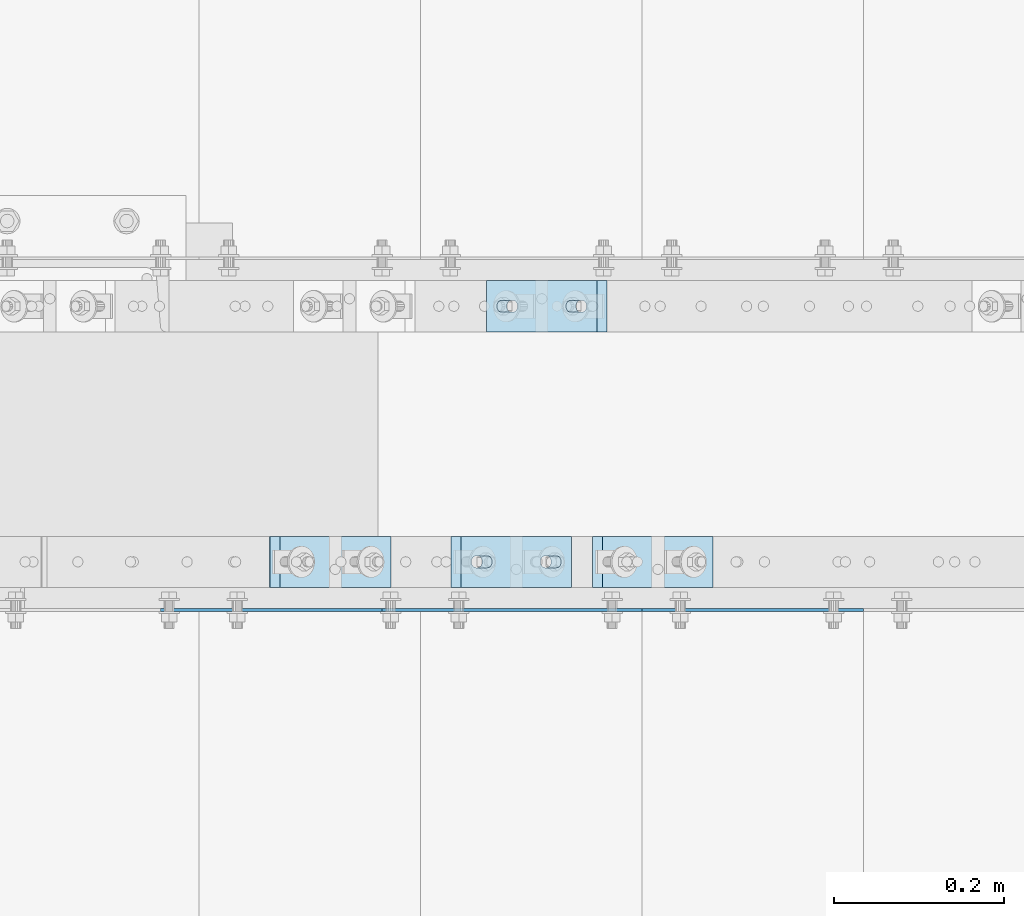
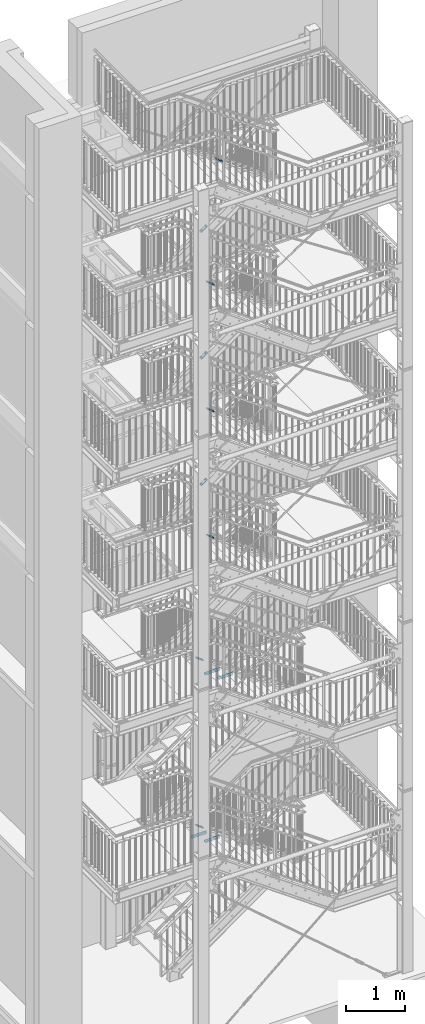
# One storey, part 171 of 825: 13 plates, 26 openings.
"""IFC2X3 building model written with IfcOpenShell, lengths in millimetres."""

from ifc_helpers import new_model, entity, si_unit, converted_unit, point, frame, frame_2d, origin, origin_with_axes, origin_2d_with_axis, place, context, project, spatial, polyline, circle_curve, line_curve, trimmed, segment, composite_curve, circle, outline, extrude, material, layer, layer_set, element, save


model = new_model("IFC2X3")

# Units and contexts
model_context = context("Model", 3, precision=1e-09, world=origin_with_axes())
ifc_project = project(units=[si_unit("LENGTHUNIT", "METRE", prefix="MILLI"), si_unit("AREAUNIT", "SQUARE_METRE"), si_unit("VOLUMEUNIT", "CUBIC_METRE"), converted_unit("PLANEANGLEUNIT", "DEGREE", entity("IfcPlaneAngleMeasure", 0.01745329), si_unit("PLANEANGLEUNIT", "RADIAN"), dimensions=[0, 0, 0, 0, 0, 0, 0])], contexts=[model_context])

# Site, building, storey
site_placement = place(None, origin_with_axes())
site = spatial("IfcSite", under=ifc_project, at=site_placement, Name="Cnopf'sche Kinderklinik", CompositionType="ELEMENT")
building_placement = place(site_placement, origin_with_axes())
building = spatial("IfcBuilding", under=site, at=building_placement, Name="Struktur 1", CompositionType="ELEMENT")
storey_placement = place(building_placement, origin_with_axes())
storey = spatial("IfcBuildingStorey", under=building, at=storey_placement, Name="Default Storey", CompositionType="ELEMENT", Elevation=0.0)

# Plate, openings
ifc_material = material(Name="S235JR")
ifc_layer_1 = layer(ifc_material, 20.0)
ifc_layer_set_1 = layer_set([ifc_layer_1], Name="S235JR")
plate_1_placement = place(None, frame((5975.781539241, 6121.736971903, 10525.387910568), z_axis=(-0.585213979, 0.0, 0.810878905), x_axis=(-0.810878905, 0.0, -0.585213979)))
plate_1 = element("IfcPlate", 1, at=plate_1_placement, inside=storey, material=ifc_layer_set_1, Name="Plate#501", ObjectType="Plate#501", context=model_context, shape_type="SweptSolid", body=[
    extrude(outline(polyline([(0.0, 0.0), (160.0, 0.0), (160.0, 60.0), (0.0, 60.0), (0.0, 0.0)])), origin_with_axes(), (0.0, 0.0, 1.0), 20.0),
])
opening_1_placement = place(plate_1_placement, frame((38.0, 37.001, 20.5), z_axis=(0.0, 0.0, 1.0), x_axis=(-1.0, 0.0, 0.0)))
element("IfcOpeningElement", 2, at=opening_1_placement, cuts=plate_1, ObjectType="Opening", context=model_context, shape_type="SweptSolid", body=[
    extrude(outline(composite_curve([segment(trimmed(line_curve((0.0, 0.0), (1.0, 0.0), 16.0), [point((0.0, 0.0))], [point((16.0, 0.0))], True, "CARTESIAN"), True, "CONTINUOUS"), segment(trimmed(circle_curve(frame_2d((16.0, 7.001), x_axis=(1.0, 0.0)), 7.001), [point((16.0, 0.0))], [point((16.0, 14.002))], True, "CARTESIAN"), True, "CONTINUOUS"), segment(trimmed(line_curve((16.0, 14.002), (-1.0, 0.0), 16.0), [point((16.0, 14.002))], [point((0.0, 14.002))], True, "CARTESIAN"), True, "CONTINUOUS"), segment(trimmed(circle_curve(frame_2d((0.0, 7.001), x_axis=(1.0, 0.0)), 7.001), [point((0.0, 14.002))], [point((0.0, 0.0))], True, "CARTESIAN"), True, "CONTINUOUS")], self_intersect=False)), origin(), (0.0, 0.0, -1.0), 21.0),
])
opening_2_placement = place(plate_1_placement, frame((138.0, 37.001, 20.5), z_axis=(0.0, 0.0, 1.0), x_axis=(-1.0, 0.0, 0.0)))
element("IfcOpeningElement", 3, at=opening_2_placement, cuts=plate_1, ObjectType="Opening", context=model_context, shape_type="SweptSolid", body=[
    extrude(outline(composite_curve([segment(trimmed(line_curve((0.0, 0.0), (1.0, 0.0), 16.0), [point((0.0, 0.0))], [point((16.0, 0.0))], True, "CARTESIAN"), True, "CONTINUOUS"), segment(trimmed(circle_curve(frame_2d((16.0, 7.001), x_axis=(1.0, 0.0)), 7.001), [point((16.0, 0.0))], [point((16.0, 14.002))], True, "CARTESIAN"), True, "CONTINUOUS"), segment(trimmed(line_curve((16.0, 14.002), (-1.0, 0.0), 16.0), [point((16.0, 14.002))], [point((0.0, 14.002))], True, "CARTESIAN"), True, "CONTINUOUS"), segment(trimmed(circle_curve(frame_2d((0.0, 7.001), x_axis=(1.0, 0.0)), 7.001), [point((0.0, 14.002))], [point((0.0, 0.0))], True, "CARTESIAN"), True, "CONTINUOUS")], self_intersect=False)), origin(), (0.0, 0.0, -1.0), 21.0),
])

plate_2_placement = place(None, frame((5975.709509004, 6121.736971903, 13153.960093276), z_axis=(-0.586383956, 0.0, 0.810033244), x_axis=(-0.810033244, 0.0, -0.586383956)))
plate_2 = element("IfcPlate", 4, at=plate_2_placement, inside=storey, material=ifc_layer_set_1, Name="Plate#501", ObjectType="Plate#501", context=model_context, shape_type="SweptSolid", body=[
    extrude(outline(polyline([(0.0, 0.0), (160.0, 0.0), (160.0, 60.0), (0.0, 60.0), (0.0, 0.0)])), origin_with_axes(), (0.0, 0.0, 1.0), 20.0),
])
opening_3_placement = place(plate_2_placement, frame((38.0, 37.001, 20.5), z_axis=(0.0, 0.0, 1.0), x_axis=(-1.0, 0.0, 0.0)))
element("IfcOpeningElement", 5, at=opening_3_placement, cuts=plate_2, ObjectType="Opening", context=model_context, shape_type="SweptSolid", body=[
    extrude(outline(composite_curve([segment(trimmed(line_curve((0.0, 0.0), (1.0, 0.0), 16.0), [point((0.0, 0.0))], [point((16.0, 0.0))], True, "CARTESIAN"), True, "CONTINUOUS"), segment(trimmed(circle_curve(frame_2d((16.0, 7.001), x_axis=(1.0, 0.0)), 7.001), [point((16.0, 0.0))], [point((16.0, 14.002))], True, "CARTESIAN"), True, "CONTINUOUS"), segment(trimmed(line_curve((16.0, 14.002), (-1.0, 0.0), 16.0), [point((16.0, 14.002))], [point((0.0, 14.002))], True, "CARTESIAN"), True, "CONTINUOUS"), segment(trimmed(circle_curve(frame_2d((0.0, 7.001), x_axis=(1.0, 0.0)), 7.001), [point((0.0, 14.002))], [point((0.0, 0.0))], True, "CARTESIAN"), True, "CONTINUOUS")], self_intersect=False)), origin(), (0.0, 0.0, -1.0), 21.0),
])
opening_4_placement = place(plate_2_placement, frame((138.0, 37.001, 20.5), z_axis=(0.0, 0.0, 1.0), x_axis=(-1.0, 0.0, 0.0)))
element("IfcOpeningElement", 6, at=opening_4_placement, cuts=plate_2, ObjectType="Opening", context=model_context, shape_type="SweptSolid", body=[
    extrude(outline(composite_curve([segment(trimmed(line_curve((0.0, 0.0), (1.0, 0.0), 16.0), [point((0.0, 0.0))], [point((16.0, 0.0))], True, "CARTESIAN"), True, "CONTINUOUS"), segment(trimmed(circle_curve(frame_2d((16.0, 7.001), x_axis=(1.0, 0.0)), 7.001), [point((16.0, 0.0))], [point((16.0, 14.002))], True, "CARTESIAN"), True, "CONTINUOUS"), segment(trimmed(line_curve((16.0, 14.002), (-1.0, 0.0), 16.0), [point((16.0, 14.002))], [point((0.0, 14.002))], True, "CARTESIAN"), True, "CONTINUOUS"), segment(trimmed(circle_curve(frame_2d((0.0, 7.001), x_axis=(1.0, 0.0)), 7.001), [point((0.0, 14.002))], [point((0.0, 0.0))], True, "CARTESIAN"), True, "CONTINUOUS")], self_intersect=False)), origin(), (0.0, 0.0, -1.0), 21.0),
])

plate_3_placement = place(None, frame((5975.844570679, 6121.736971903, 15786.011994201), z_axis=(-0.584187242, 0.0, 0.811618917), x_axis=(-0.811618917, 0.0, -0.584187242)))
plate_3 = element("IfcPlate", 7, at=plate_3_placement, inside=storey, material=ifc_layer_set_1, Name="Plate#501", ObjectType="Plate#501", context=model_context, shape_type="SweptSolid", body=[
    extrude(outline(polyline([(0.0, 0.0), (160.0, 0.0), (160.0, 60.0), (0.0, 60.0), (0.0, 0.0)])), origin_with_axes(), (0.0, 0.0, 1.0), 20.0),
])
opening_5_placement = place(plate_3_placement, frame((38.0, 37.001, 20.5), z_axis=(0.0, 0.0, 1.0), x_axis=(-1.0, 0.0, 0.0)))
element("IfcOpeningElement", 8, at=opening_5_placement, cuts=plate_3, ObjectType="Opening", context=model_context, shape_type="SweptSolid", body=[
    extrude(outline(composite_curve([segment(trimmed(line_curve((0.0, 0.0), (1.0, 0.0), 16.0), [point((0.0, 0.0))], [point((16.0, 0.0))], True, "CARTESIAN"), True, "CONTINUOUS"), segment(trimmed(circle_curve(frame_2d((16.0, 7.001), x_axis=(1.0, 0.0)), 7.001), [point((16.0, 0.0))], [point((16.0, 14.002))], True, "CARTESIAN"), True, "CONTINUOUS"), segment(trimmed(line_curve((16.0, 14.002), (-1.0, 0.0), 16.0), [point((16.0, 14.002))], [point((0.0, 14.002))], True, "CARTESIAN"), True, "CONTINUOUS"), segment(trimmed(circle_curve(frame_2d((0.0, 7.001), x_axis=(1.0, 0.0)), 7.001), [point((0.0, 14.002))], [point((0.0, 0.0))], True, "CARTESIAN"), True, "CONTINUOUS")], self_intersect=False)), origin(), (0.0, 0.0, -1.0), 21.0),
])
opening_6_placement = place(plate_3_placement, frame((138.0, 37.001, 20.5), z_axis=(0.0, 0.0, 1.0), x_axis=(-1.0, 0.0, 0.0)))
element("IfcOpeningElement", 9, at=opening_6_placement, cuts=plate_3, ObjectType="Opening", context=model_context, shape_type="SweptSolid", body=[
    extrude(outline(composite_curve([segment(trimmed(line_curve((0.0, 0.0), (1.0, 0.0), 16.0), [point((0.0, 0.0))], [point((16.0, 0.0))], True, "CARTESIAN"), True, "CONTINUOUS"), segment(trimmed(circle_curve(frame_2d((16.0, 7.001), x_axis=(1.0, 0.0)), 7.001), [point((16.0, 0.0))], [point((16.0, 14.002))], True, "CARTESIAN"), True, "CONTINUOUS"), segment(trimmed(line_curve((16.0, 14.002), (-1.0, 0.0), 16.0), [point((16.0, 14.002))], [point((0.0, 14.002))], True, "CARTESIAN"), True, "CONTINUOUS"), segment(trimmed(circle_curve(frame_2d((0.0, 7.001), x_axis=(1.0, 0.0)), 7.001), [point((0.0, 14.002))], [point((0.0, 0.0))], True, "CARTESIAN"), True, "CONTINUOUS")], self_intersect=False)), origin(), (0.0, 0.0, -1.0), 21.0),
])

plate_4_placement = place(None, frame((5580.039038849, 5761.736971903, 3642.571606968), z_axis=(0.579973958, 0.0, 0.814635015), x_axis=(0.814635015, 0.0, -0.579973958)))
plate_4 = element("IfcPlate", 10, at=plate_4_placement, inside=storey, material=ifc_layer_set_1, Name="Plate#502", ObjectType="Plate#502", context=model_context, shape_type="SweptSolid", body=[
    extrude(outline(polyline([(0.0, 0.0), (160.0, 0.0), (160.0, 60.0), (0.0, 60.0), (0.0, 0.0)])), origin_with_axes(), (0.0, 0.0, 1.0), 20.0),
])
opening_7_placement = place(plate_4_placement, frame((38.0, 37.001, 20.5), z_axis=(0.0, 0.0, 1.0), x_axis=(-1.0, 0.0, 0.0)))
element("IfcOpeningElement", 11, at=opening_7_placement, cuts=plate_4, ObjectType="Opening", context=model_context, shape_type="SweptSolid", body=[
    extrude(outline(composite_curve([segment(trimmed(line_curve((0.0, 0.0), (1.0, 0.0), 16.0), [point((0.0, 0.0))], [point((16.0, 0.0))], True, "CARTESIAN"), True, "CONTINUOUS"), segment(trimmed(circle_curve(frame_2d((16.0, 7.001), x_axis=(1.0, 0.0)), 7.001), [point((16.0, 0.0))], [point((16.0, 14.002))], True, "CARTESIAN"), True, "CONTINUOUS"), segment(trimmed(line_curve((16.0, 14.002), (-1.0, 0.0), 16.0), [point((16.0, 14.002))], [point((0.0, 14.002))], True, "CARTESIAN"), True, "CONTINUOUS"), segment(trimmed(circle_curve(frame_2d((0.0, 7.001), x_axis=(1.0, 0.0)), 7.001), [point((0.0, 14.002))], [point((0.0, 0.0))], True, "CARTESIAN"), True, "CONTINUOUS")], self_intersect=False)), origin(), (0.0, 0.0, -1.0), 21.0),
])
opening_8_placement = place(plate_4_placement, frame((138.0, 37.001, 20.5), z_axis=(0.0, 0.0, 1.0), x_axis=(-1.0, 0.0, 0.0)))
element("IfcOpeningElement", 12, at=opening_8_placement, cuts=plate_4, ObjectType="Opening", context=model_context, shape_type="SweptSolid", body=[
    extrude(outline(composite_curve([segment(trimmed(line_curve((0.0, 0.0), (1.0, 0.0), 16.0), [point((0.0, 0.0))], [point((16.0, 0.0))], True, "CARTESIAN"), True, "CONTINUOUS"), segment(trimmed(circle_curve(frame_2d((16.0, 7.001), x_axis=(1.0, 0.0)), 7.001), [point((16.0, 0.0))], [point((16.0, 14.002))], True, "CARTESIAN"), True, "CONTINUOUS"), segment(trimmed(line_curve((16.0, 14.002), (-1.0, 0.0), 16.0), [point((16.0, 14.002))], [point((0.0, 14.002))], True, "CARTESIAN"), True, "CONTINUOUS"), segment(trimmed(circle_curve(frame_2d((0.0, 7.001), x_axis=(1.0, 0.0)), 7.001), [point((0.0, 14.002))], [point((0.0, 0.0))], True, "CARTESIAN"), True, "CONTINUOUS")], self_intersect=False)), origin(), (0.0, 0.0, -1.0), 21.0),
])

plate_5_placement = place(None, frame((5579.69602376, 5761.736971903, 7118.870720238), z_axis=(0.57512827, 0.0, 0.818063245), x_axis=(0.818063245, 0.0, -0.57512827)))
plate_5 = element("IfcPlate", 13, at=plate_5_placement, inside=storey, material=ifc_layer_set_1, Name="Plate#502", ObjectType="Plate#502", context=model_context, shape_type="SweptSolid", body=[
    extrude(outline(polyline([(0.0, 0.0), (160.0, 0.0), (160.0, 60.0), (0.0, 60.0), (0.0, 0.0)])), origin_with_axes(), (0.0, 0.0, 1.0), 20.0),
])
opening_9_placement = place(plate_5_placement, frame((38.0, 37.001, 20.5), z_axis=(0.0, 0.0, 1.0), x_axis=(-1.0, 0.0, 0.0)))
element("IfcOpeningElement", 14, at=opening_9_placement, cuts=plate_5, ObjectType="Opening", context=model_context, shape_type="SweptSolid", body=[
    extrude(outline(composite_curve([segment(trimmed(line_curve((0.0, 0.0), (1.0, 0.0), 16.0), [point((0.0, 0.0))], [point((16.0, 0.0))], True, "CARTESIAN"), True, "CONTINUOUS"), segment(trimmed(circle_curve(frame_2d((16.0, 7.001), x_axis=(1.0, 0.0)), 7.001), [point((16.0, 0.0))], [point((16.0, 14.002))], True, "CARTESIAN"), True, "CONTINUOUS"), segment(trimmed(line_curve((16.0, 14.002), (-1.0, 0.0), 16.0), [point((16.0, 14.002))], [point((0.0, 14.002))], True, "CARTESIAN"), True, "CONTINUOUS"), segment(trimmed(circle_curve(frame_2d((0.0, 7.001), x_axis=(1.0, 0.0)), 7.001), [point((0.0, 14.002))], [point((0.0, 0.0))], True, "CARTESIAN"), True, "CONTINUOUS")], self_intersect=False)), origin(), (0.0, 0.0, -1.0), 21.0),
])
opening_10_placement = place(plate_5_placement, frame((138.0, 37.001, 20.5), z_axis=(0.0, 0.0, 1.0), x_axis=(-1.0, 0.0, 0.0)))
element("IfcOpeningElement", 15, at=opening_10_placement, cuts=plate_5, ObjectType="Opening", context=model_context, shape_type="SweptSolid", body=[
    extrude(outline(composite_curve([segment(trimmed(line_curve((0.0, 0.0), (1.0, 0.0), 16.0), [point((0.0, 0.0))], [point((16.0, 0.0))], True, "CARTESIAN"), True, "CONTINUOUS"), segment(trimmed(circle_curve(frame_2d((16.0, 7.001), x_axis=(1.0, 0.0)), 7.001), [point((16.0, 0.0))], [point((16.0, 14.002))], True, "CARTESIAN"), True, "CONTINUOUS"), segment(trimmed(line_curve((16.0, 14.002), (-1.0, 0.0), 16.0), [point((16.0, 14.002))], [point((0.0, 14.002))], True, "CARTESIAN"), True, "CONTINUOUS"), segment(trimmed(circle_curve(frame_2d((0.0, 7.001), x_axis=(1.0, 0.0)), 7.001), [point((0.0, 14.002))], [point((0.0, 0.0))], True, "CARTESIAN"), True, "CONTINUOUS")], self_intersect=False)), origin(), (0.0, 0.0, -1.0), 21.0),
])

plate_6_placement = place(None, frame((5792.6912864, 5761.736971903, 9589.985222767), z_axis=(0.585945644, 0.0, 0.810350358), x_axis=(0.810350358, 0.0, -0.585945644)))
plate_6 = element("IfcPlate", 16, at=plate_6_placement, inside=storey, material=ifc_layer_set_1, Name="Plate#501", ObjectType="Plate#501", context=model_context, shape_type="SweptSolid", body=[
    extrude(outline(polyline([(0.0, 0.0), (160.0, 0.0), (160.0, 60.0), (0.0, 60.0), (0.0, 0.0)])), origin_with_axes(), (0.0, 0.0, 1.0), 20.0),
])
opening_11_placement = place(plate_6_placement, frame((38.0, 37.001, 20.5), z_axis=(0.0, 0.0, 1.0), x_axis=(-1.0, 0.0, 0.0)))
element("IfcOpeningElement", 17, at=opening_11_placement, cuts=plate_6, ObjectType="Opening", context=model_context, shape_type="SweptSolid", body=[
    extrude(outline(composite_curve([segment(trimmed(line_curve((0.0, 0.0), (1.0, 0.0), 16.0), [point((0.0, 0.0))], [point((16.0, 0.0))], True, "CARTESIAN"), True, "CONTINUOUS"), segment(trimmed(circle_curve(frame_2d((16.0, 7.001), x_axis=(1.0, 0.0)), 7.001), [point((16.0, 0.0))], [point((16.0, 14.002))], True, "CARTESIAN"), True, "CONTINUOUS"), segment(trimmed(line_curve((16.0, 14.002), (-1.0, 0.0), 16.0), [point((16.0, 14.002))], [point((0.0, 14.002))], True, "CARTESIAN"), True, "CONTINUOUS"), segment(trimmed(circle_curve(frame_2d((0.0, 7.001), x_axis=(1.0, 0.0)), 7.001), [point((0.0, 14.002))], [point((0.0, 0.0))], True, "CARTESIAN"), True, "CONTINUOUS")], self_intersect=False)), origin(), (0.0, 0.0, -1.0), 21.0),
])
opening_12_placement = place(plate_6_placement, frame((138.0, 37.001, 20.5), z_axis=(0.0, 0.0, 1.0), x_axis=(-1.0, 0.0, 0.0)))
element("IfcOpeningElement", 18, at=opening_12_placement, cuts=plate_6, ObjectType="Opening", context=model_context, shape_type="SweptSolid", body=[
    extrude(outline(composite_curve([segment(trimmed(line_curve((0.0, 0.0), (1.0, 0.0), 16.0), [point((0.0, 0.0))], [point((16.0, 0.0))], True, "CARTESIAN"), True, "CONTINUOUS"), segment(trimmed(circle_curve(frame_2d((16.0, 7.001), x_axis=(1.0, 0.0)), 7.001), [point((16.0, 0.0))], [point((16.0, 14.002))], True, "CARTESIAN"), True, "CONTINUOUS"), segment(trimmed(line_curve((16.0, 14.002), (-1.0, 0.0), 16.0), [point((16.0, 14.002))], [point((0.0, 14.002))], True, "CARTESIAN"), True, "CONTINUOUS"), segment(trimmed(circle_curve(frame_2d((0.0, 7.001), x_axis=(1.0, 0.0)), 7.001), [point((0.0, 14.002))], [point((0.0, 0.0))], True, "CARTESIAN"), True, "CONTINUOUS")], self_intersect=False)), origin(), (0.0, 0.0, -1.0), 21.0),
])

plate_7_placement = place(None, frame((5792.646266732, 5761.736971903, 12217.781419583), z_axis=(0.585213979, 0.0, 0.810878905), x_axis=(0.810878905, 0.0, -0.585213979)))
plate_7 = element("IfcPlate", 19, at=plate_7_placement, inside=storey, material=ifc_layer_set_1, Name="Plate#501", ObjectType="Plate#501", context=model_context, shape_type="SweptSolid", body=[
    extrude(outline(polyline([(0.0, 0.0), (160.0, 0.0), (160.0, 60.0), (0.0, 60.0), (0.0, 0.0)])), origin_with_axes(), (0.0, 0.0, 1.0), 20.0),
])
opening_13_placement = place(plate_7_placement, frame((38.0, 37.001, 20.5), z_axis=(0.0, 0.0, 1.0), x_axis=(-1.0, 0.0, 0.0)))
element("IfcOpeningElement", 20, at=opening_13_placement, cuts=plate_7, ObjectType="Opening", context=model_context, shape_type="SweptSolid", body=[
    extrude(outline(composite_curve([segment(trimmed(line_curve((0.0, 0.0), (1.0, 0.0), 16.0), [point((0.0, 0.0))], [point((16.0, 0.0))], True, "CARTESIAN"), True, "CONTINUOUS"), segment(trimmed(circle_curve(frame_2d((16.0, 7.001), x_axis=(1.0, 0.0)), 7.001), [point((16.0, 0.0))], [point((16.0, 14.002))], True, "CARTESIAN"), True, "CONTINUOUS"), segment(trimmed(line_curve((16.0, 14.002), (-1.0, 0.0), 16.0), [point((16.0, 14.002))], [point((0.0, 14.002))], True, "CARTESIAN"), True, "CONTINUOUS"), segment(trimmed(circle_curve(frame_2d((0.0, 7.001), x_axis=(1.0, 0.0)), 7.001), [point((0.0, 14.002))], [point((0.0, 0.0))], True, "CARTESIAN"), True, "CONTINUOUS")], self_intersect=False)), origin(), (0.0, 0.0, -1.0), 21.0),
])
opening_14_placement = place(plate_7_placement, frame((138.0, 37.001, 20.5), z_axis=(0.0, 0.0, 1.0), x_axis=(-1.0, 0.0, 0.0)))
element("IfcOpeningElement", 21, at=opening_14_placement, cuts=plate_7, ObjectType="Opening", context=model_context, shape_type="SweptSolid", body=[
    extrude(outline(composite_curve([segment(trimmed(line_curve((0.0, 0.0), (1.0, 0.0), 16.0), [point((0.0, 0.0))], [point((16.0, 0.0))], True, "CARTESIAN"), True, "CONTINUOUS"), segment(trimmed(circle_curve(frame_2d((16.0, 7.001), x_axis=(1.0, 0.0)), 7.001), [point((16.0, 0.0))], [point((16.0, 14.002))], True, "CARTESIAN"), True, "CONTINUOUS"), segment(trimmed(line_curve((16.0, 14.002), (-1.0, 0.0), 16.0), [point((16.0, 14.002))], [point((0.0, 14.002))], True, "CARTESIAN"), True, "CONTINUOUS"), segment(trimmed(circle_curve(frame_2d((0.0, 7.001), x_axis=(1.0, 0.0)), 7.001), [point((0.0, 14.002))], [point((0.0, 0.0))], True, "CARTESIAN"), True, "CONTINUOUS")], self_intersect=False)), origin(), (0.0, 0.0, -1.0), 21.0),
])

plate_8_placement = place(None, frame((5792.718296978, 5761.736971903, 14851.50744628), z_axis=(0.586383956, 0.0, 0.810033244), x_axis=(0.810033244, 0.0, -0.586383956)))
plate_8 = element("IfcPlate", 22, at=plate_8_placement, inside=storey, material=ifc_layer_set_1, Name="Plate#501", ObjectType="Plate#501", context=model_context, shape_type="SweptSolid", body=[
    extrude(outline(polyline([(0.0, 0.0), (160.0, 0.0), (160.0, 60.0), (0.0, 60.0), (0.0, 0.0)])), origin_with_axes(), (0.0, 0.0, 1.0), 20.0),
])
opening_15_placement = place(plate_8_placement, frame((38.0, 37.001, 20.5), z_axis=(0.0, 0.0, 1.0), x_axis=(-1.0, 0.0, 0.0)))
element("IfcOpeningElement", 23, at=opening_15_placement, cuts=plate_8, ObjectType="Opening", context=model_context, shape_type="SweptSolid", body=[
    extrude(outline(composite_curve([segment(trimmed(line_curve((0.0, 0.0), (1.0, 0.0), 16.0), [point((0.0, 0.0))], [point((16.0, 0.0))], True, "CARTESIAN"), True, "CONTINUOUS"), segment(trimmed(circle_curve(frame_2d((16.0, 7.001), x_axis=(1.0, 0.0)), 7.001), [point((16.0, 0.0))], [point((16.0, 14.002))], True, "CARTESIAN"), True, "CONTINUOUS"), segment(trimmed(line_curve((16.0, 14.002), (-1.0, 0.0), 16.0), [point((16.0, 14.002))], [point((0.0, 14.002))], True, "CARTESIAN"), True, "CONTINUOUS"), segment(trimmed(circle_curve(frame_2d((0.0, 7.001), x_axis=(1.0, 0.0)), 7.001), [point((0.0, 14.002))], [point((0.0, 0.0))], True, "CARTESIAN"), True, "CONTINUOUS")], self_intersect=False)), origin(), (0.0, 0.0, -1.0), 21.0),
])
opening_16_placement = place(plate_8_placement, frame((138.0, 37.001, 20.5), z_axis=(0.0, 0.0, 1.0), x_axis=(-1.0, 0.0, 0.0)))
element("IfcOpeningElement", 24, at=opening_16_placement, cuts=plate_8, ObjectType="Opening", context=model_context, shape_type="SweptSolid", body=[
    extrude(outline(composite_curve([segment(trimmed(line_curve((0.0, 0.0), (1.0, 0.0), 16.0), [point((0.0, 0.0))], [point((16.0, 0.0))], True, "CARTESIAN"), True, "CONTINUOUS"), segment(trimmed(circle_curve(frame_2d((16.0, 7.001), x_axis=(1.0, 0.0)), 7.001), [point((16.0, 0.0))], [point((16.0, 14.002))], True, "CARTESIAN"), True, "CONTINUOUS"), segment(trimmed(line_curve((16.0, 14.002), (-1.0, 0.0), 16.0), [point((16.0, 14.002))], [point((0.0, 14.002))], True, "CARTESIAN"), True, "CONTINUOUS"), segment(trimmed(circle_curve(frame_2d((0.0, 7.001), x_axis=(1.0, 0.0)), 7.001), [point((0.0, 14.002))], [point((0.0, 0.0))], True, "CARTESIAN"), True, "CONTINUOUS")], self_intersect=False)), origin(), (0.0, 0.0, -1.0), 21.0),
])

plate_9_placement = place(None, frame((5958.833485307, 5761.736971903, 17354.232248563), z_axis=(0.584187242, 0.0, 0.811618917), x_axis=(0.811618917, 0.0, -0.584187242)))
plate_9 = element("IfcPlate", 25, at=plate_9_placement, inside=storey, material=ifc_layer_set_1, Name="Plate#501", ObjectType="Plate#501", context=model_context, shape_type="SweptSolid", body=[
    extrude(outline(polyline([(0.0, 0.0), (160.0, 0.0), (160.0, 60.0), (0.0, 60.0), (0.0, 0.0)])), origin_with_axes(), (0.0, 0.0, 1.0), 20.0),
])
opening_17_placement = place(plate_9_placement, frame((38.0, 37.001, 20.5), z_axis=(0.0, 0.0, 1.0), x_axis=(-1.0, 0.0, 0.0)))
element("IfcOpeningElement", 26, at=opening_17_placement, cuts=plate_9, ObjectType="Opening", context=model_context, shape_type="SweptSolid", body=[
    extrude(outline(composite_curve([segment(trimmed(line_curve((0.0, 0.0), (1.0, 0.0), 16.0), [point((0.0, 0.0))], [point((16.0, 0.0))], True, "CARTESIAN"), True, "CONTINUOUS"), segment(trimmed(circle_curve(frame_2d((16.0, 7.001), x_axis=(1.0, 0.0)), 7.001), [point((16.0, 0.0))], [point((16.0, 14.002))], True, "CARTESIAN"), True, "CONTINUOUS"), segment(trimmed(line_curve((16.0, 14.002), (-1.0, 0.0), 16.0), [point((16.0, 14.002))], [point((0.0, 14.002))], True, "CARTESIAN"), True, "CONTINUOUS"), segment(trimmed(circle_curve(frame_2d((0.0, 7.001), x_axis=(1.0, 0.0)), 7.001), [point((0.0, 14.002))], [point((0.0, 0.0))], True, "CARTESIAN"), True, "CONTINUOUS")], self_intersect=False)), origin(), (0.0, 0.0, -1.0), 21.0),
])
opening_18_placement = place(plate_9_placement, frame((138.0, 37.001, 20.5), z_axis=(0.0, 0.0, 1.0), x_axis=(-1.0, 0.0, 0.0)))
element("IfcOpeningElement", 27, at=opening_18_placement, cuts=plate_9, ObjectType="Opening", context=model_context, shape_type="SweptSolid", body=[
    extrude(outline(composite_curve([segment(trimmed(line_curve((0.0, 0.0), (1.0, 0.0), 16.0), [point((0.0, 0.0))], [point((16.0, 0.0))], True, "CARTESIAN"), True, "CONTINUOUS"), segment(trimmed(circle_curve(frame_2d((16.0, 7.001), x_axis=(1.0, 0.0)), 7.001), [point((16.0, 0.0))], [point((16.0, 14.002))], True, "CARTESIAN"), True, "CONTINUOUS"), segment(trimmed(line_curve((16.0, 14.002), (-1.0, 0.0), 16.0), [point((16.0, 14.002))], [point((0.0, 14.002))], True, "CARTESIAN"), True, "CONTINUOUS"), segment(trimmed(circle_curve(frame_2d((0.0, 7.001), x_axis=(1.0, 0.0)), 7.001), [point((0.0, 14.002))], [point((0.0, 0.0))], True, "CARTESIAN"), True, "CONTINUOUS")], self_intersect=False)), origin(), (0.0, 0.0, -1.0), 21.0),
])

ifc_layer_2 = layer(ifc_material, 3.0)
ifc_layer_set_2 = layer_set([ifc_layer_2], Name="S235JR")
plate_10_placement = place(None, frame((5756.713402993, 5733.736971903, 3516.7894736), z_axis=(0.0, 1.0, 0.0), x_axis=(0.0, 0.0, -1.0)))
plate_10 = element("IfcPlate", 28, at=plate_10_placement, inside=storey, material=ifc_layer_set_2, Name="Grate_Step#45", ObjectType="Grate_Step#45", context=model_context, shape_type="SweptSolid", body=[
    extrude(outline(polyline([(0.0, 0.0), (70.0, 0.0), (70.0, 275.0), (40.0, 305.0), (0.0, 305.0), (0.0, 0.0)])), origin_with_axes(), (0.0, 0.0, 1.0), 3.0),
])
opening_19_placement = place(plate_10_placement, frame((55.0, 215.0, -0.5), z_axis=(0.0, 0.0, 1.0), x_axis=(0.0, 1.0, 0.0)))
element("IfcOpeningElement", 29, at=opening_19_placement, cuts=plate_10, ObjectType="Opening", context=model_context, shape_type="SweptSolid", body=[
    extrude(outline(composite_curve([segment(trimmed(line_curve((-9.5, -7.001), (1.0, 0.0), 19.0), [point((-9.5, -7.001))], [point((9.5, -7.001))], True, "CARTESIAN"), True, "CONTINUOUS"), segment(trimmed(circle_curve(frame_2d((9.5, 0.0), x_axis=(1.0, 0.0)), 7.001), [point((9.5, -7.001))], [point((9.5, 7.001))], True, "CARTESIAN"), True, "CONTINUOUS"), segment(trimmed(line_curve((9.5, 7.001), (-1.0, 0.0), 19.0), [point((9.5, 7.001))], [point((-9.5, 7.001))], True, "CARTESIAN"), True, "CONTINUOUS"), segment(trimmed(circle_curve(frame_2d((-9.5, 0.0), x_axis=(1.0, 0.0)), 7.001), [point((-9.5, 7.001))], [point((-9.5, -7.001))], True, "CARTESIAN"), True, "CONTINUOUS")], self_intersect=False)), origin(), (0.0, 0.0, 1.0), 4.0),
])
opening_20_placement = place(plate_10_placement, frame((55.0, 35.0, -0.5), z_axis=(0.0, 0.0, 1.0), x_axis=(0.0, 1.0, 0.0)))
element("IfcOpeningElement", 30, at=opening_20_placement, cuts=plate_10, ObjectType="Opening", context=model_context, shape_type="SweptSolid", body=[
    extrude(circle(Radius=7.001, at=origin_2d_with_axis()), origin(), (0.0, 0.0, 1.0), 4.0),
])

plate_11_placement = place(None, frame((6016.713402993, 5733.736971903, 3331.6842104), z_axis=(0.0, 1.0, 0.0), x_axis=(0.0, 0.0, -1.0)))
plate_11 = element("IfcPlate", 31, at=plate_11_placement, inside=storey, material=ifc_layer_set_2, Name="Grate_Step#38", ObjectType="Grate_Step#38", context=model_context, shape_type="SweptSolid", body=[
    extrude(outline(polyline([(0.0, 0.0), (70.0, 0.0), (70.0, 275.0), (40.0, 305.0), (0.0, 305.0), (0.0, 0.0)])), origin_with_axes(), (0.0, 0.0, 1.0), 3.0),
])
opening_21_placement = place(plate_11_placement, frame((55.0, 215.0, -0.5), z_axis=(0.0, 0.0, 1.0), x_axis=(0.0, 1.0, 0.0)))
element("IfcOpeningElement", 32, at=opening_21_placement, cuts=plate_11, ObjectType="Opening", context=model_context, shape_type="SweptSolid", body=[
    extrude(outline(composite_curve([segment(trimmed(line_curve((-9.5, -7.001), (1.0, 0.0), 19.0), [point((-9.5, -7.001))], [point((9.5, -7.001))], True, "CARTESIAN"), True, "CONTINUOUS"), segment(trimmed(circle_curve(frame_2d((9.5, 0.0), x_axis=(1.0, 0.0)), 7.001), [point((9.5, -7.001))], [point((9.5, 7.001))], True, "CARTESIAN"), True, "CONTINUOUS"), segment(trimmed(line_curve((9.5, 7.001), (-1.0, 0.0), 19.0), [point((9.5, 7.001))], [point((-9.5, 7.001))], True, "CARTESIAN"), True, "CONTINUOUS"), segment(trimmed(circle_curve(frame_2d((-9.5, 0.0), x_axis=(1.0, 0.0)), 7.001), [point((-9.5, 7.001))], [point((-9.5, -7.001))], True, "CARTESIAN"), True, "CONTINUOUS")], self_intersect=False)), origin(), (0.0, 0.0, 1.0), 4.0),
])
opening_22_placement = place(plate_11_placement, frame((55.0, 35.0, -0.5), z_axis=(0.0, 0.0, 1.0), x_axis=(0.0, 1.0, 0.0)))
element("IfcOpeningElement", 33, at=opening_22_placement, cuts=plate_11, ObjectType="Opening", context=model_context, shape_type="SweptSolid", body=[
    extrude(circle(Radius=7.001, at=origin_2d_with_axis()), origin(), (0.0, 0.0, 1.0), 4.0),
])

plate_12_placement = place(None, frame((6016.713402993, 5733.736971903, 6811.6315789), z_axis=(0.0, 1.0, 0.0), x_axis=(0.0, 0.0, -1.0)))
plate_12 = element("IfcPlate", 34, at=plate_12_placement, inside=storey, material=ifc_layer_set_2, Name="Grate_Step#38", ObjectType="Grate_Step#38", context=model_context, shape_type="SweptSolid", body=[
    extrude(outline(polyline([(0.0, 0.0), (70.0, 0.0), (70.0, 275.0), (40.0, 305.0), (0.0, 305.0), (0.0, 0.0)])), origin_with_axes(), (0.0, 0.0, 1.0), 3.0),
])
opening_23_placement = place(plate_12_placement, frame((55.0, 35.0, -0.5), z_axis=(0.0, 0.0, 1.0), x_axis=(0.0, 1.0, 0.0)))
element("IfcOpeningElement", 35, at=opening_23_placement, cuts=plate_12, ObjectType="Opening", context=model_context, shape_type="SweptSolid", body=[
    extrude(circle(Radius=7.001, at=origin_2d_with_axis()), origin(), (0.0, 0.0, 1.0), 4.0),
])
opening_24_placement = place(plate_12_placement, frame((55.0, 215.0, -0.5), z_axis=(0.0, 0.0, 1.0), x_axis=(0.0, 1.0, 0.0)))
element("IfcOpeningElement", 36, at=opening_24_placement, cuts=plate_12, ObjectType="Opening", context=model_context, shape_type="SweptSolid", body=[
    extrude(outline(composite_curve([segment(trimmed(line_curve((-9.5, -7.001), (1.0, 0.0), 19.0), [point((-9.5, -7.001))], [point((9.5, -7.001))], True, "CARTESIAN"), True, "CONTINUOUS"), segment(trimmed(circle_curve(frame_2d((9.5, 0.0), x_axis=(1.0, 0.0)), 7.001), [point((9.5, -7.001))], [point((9.5, 7.001))], True, "CARTESIAN"), True, "CONTINUOUS"), segment(trimmed(line_curve((9.5, 7.001), (-1.0, 0.0), 19.0), [point((9.5, 7.001))], [point((-9.5, 7.001))], True, "CARTESIAN"), True, "CONTINUOUS"), segment(trimmed(circle_curve(frame_2d((-9.5, 0.0), x_axis=(1.0, 0.0)), 7.001), [point((-9.5, 7.001))], [point((-9.5, -7.001))], True, "CARTESIAN"), True, "CONTINUOUS")], self_intersect=False)), origin(), (0.0, 0.0, 1.0), 4.0),
])

plate_13_placement = place(None, frame((6276.713402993, 5733.736971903, 6628.8421052), z_axis=(0.0, 1.0, 0.0), x_axis=(0.0, 0.0, -1.0)))
plate_13 = element("IfcPlate", 37, at=plate_13_placement, inside=storey, material=ifc_layer_set_2, Name="Grate_Step#31", ObjectType="Grate_Step#31", context=model_context, shape_type="SweptSolid", body=[
    extrude(outline(polyline([(0.0, 0.0), (70.0, 0.0), (70.0, 275.0), (40.0, 305.0), (0.0, 305.0), (0.0, 0.0)])), origin_with_axes(), (0.0, 0.0, 1.0), 3.0),
])
opening_25_placement = place(plate_13_placement, frame((55.0, 35.0, -0.5), z_axis=(0.0, 0.0, 1.0), x_axis=(0.0, 1.0, 0.0)))
element("IfcOpeningElement", 38, at=opening_25_placement, cuts=plate_13, ObjectType="Opening", context=model_context, shape_type="SweptSolid", body=[
    extrude(circle(Radius=7.001, at=origin_2d_with_axis()), origin(), (0.0, 0.0, 1.0), 4.0),
])
opening_26_placement = place(plate_13_placement, frame((55.0, 215.0, -0.5), z_axis=(0.0, 0.0, 1.0), x_axis=(0.0, 1.0, 0.0)))
element("IfcOpeningElement", 39, at=opening_26_placement, cuts=plate_13, ObjectType="Opening", context=model_context, shape_type="SweptSolid", body=[
    extrude(outline(composite_curve([segment(trimmed(line_curve((-9.5, -7.001), (1.0, 0.0), 19.0), [point((-9.5, -7.001))], [point((9.5, -7.001))], True, "CARTESIAN"), True, "CONTINUOUS"), segment(trimmed(circle_curve(frame_2d((9.5, 0.0), x_axis=(1.0, 0.0)), 7.001), [point((9.5, -7.001))], [point((9.5, 7.001))], True, "CARTESIAN"), True, "CONTINUOUS"), segment(trimmed(line_curve((9.5, 7.001), (-1.0, 0.0), 19.0), [point((9.5, 7.001))], [point((-9.5, 7.001))], True, "CARTESIAN"), True, "CONTINUOUS"), segment(trimmed(circle_curve(frame_2d((-9.5, 0.0), x_axis=(1.0, 0.0)), 7.001), [point((-9.5, 7.001))], [point((-9.5, -7.001))], True, "CARTESIAN"), True, "CONTINUOUS")], self_intersect=False)), origin(), (0.0, 0.0, 1.0), 4.0),
])

save(model, "model.ifc")
